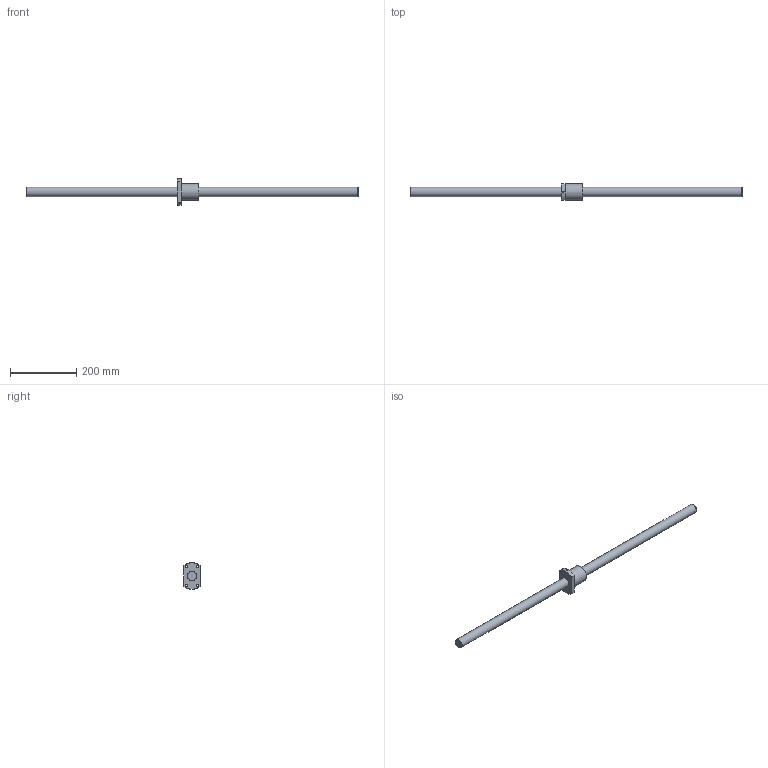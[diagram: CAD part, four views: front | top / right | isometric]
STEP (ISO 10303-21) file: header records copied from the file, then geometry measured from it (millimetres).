
FILE_DESCRIPTION((''),'2;1');
FILE_NAME('D:\製品 (図面)\カタログ用3D\ネジ関連\STEP形式\RBSMA\RBSMA2806-1000.stp','2010-06-02T14:44:16',('Tsuchiya'),(''),'Autodesk Inventor 10','Autodesk Inventor 10','');
FILE_SCHEMA(('AUTOMOTIVE_DESIGN { 1 0 10303 214 1 1 1 1 }'));
Length unit declared in the file: millimetre
Products named in the file (3): RBSMA2806-1000; RBSMA2806-10001; RBSMA2806-10002
Assembly tree (2 placements, depth 2):
  RBSMA2806-1000
    RBSMA2806-10001
    RBSMA2806-10002
Bounding box: 1000 x 50 x 80 mm (x, y, z)
Volume: 722184.8 mm3; surface area: 113115.7 mm2
Topology: 2 solids, 2 shells, 25 faces, 63 edges, 42 vertices
Faces by surface type: cylinder 9, plane 8, cone 7, bspline 1
Full cylindrical faces by diameter (mm): 6.6 x4, 28 x2, 50 x1
Entity records: 888 total; most frequent: CARTESIAN_POINT 273, DIRECTION 120, ORIENTED_EDGE 94, AXIS2_PLACEMENT_3D 55, EDGE_LOOP 48, EDGE_CURVE 47, VERTEX_POINT 37, CIRCLE 26
